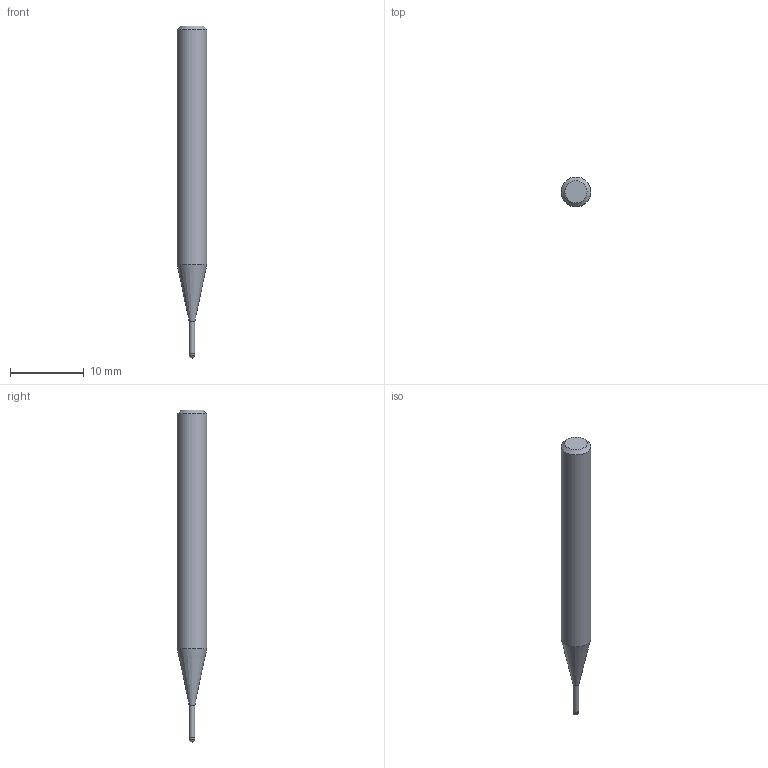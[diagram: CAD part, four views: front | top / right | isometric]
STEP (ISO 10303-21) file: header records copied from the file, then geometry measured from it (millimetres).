
FILE_DESCRIPTION((''),'2;1');
FILE_NAME('C:\Users\nsx150\AppData\Local\Temp\Mastercam 2021\3SYKECWX22\TEMP.step','2021-04-22T10:01:36',(''),(''),'STEP Write','Mastercam 2021 ... CNC Software, Inc.','');
FILE_SCHEMA(('AUTOMOTIVE_DESIGN'));
Length unit declared in the file: millimetre
Products named in the file (1): None
Bounding box: 4 x 4 x 45 mm (x, y, z)
Volume: 446.8 mm3; surface area: 486.7 mm2
Topology: 2 solids, 2 shells, 9 faces, 14 edges, 8 vertices
Faces by surface type: plane 3, cylinder 3, cone 2, sphere 1
Full cylindrical faces by diameter (mm): 0.76 x1, 0.8 x1, 4 x1
Entity records: 211 total; most frequent: DIRECTION 36, CARTESIAN_POINT 25, AXIS2_PLACEMENT_3D 18, ORIENTED_EDGE 14, EDGE_LOOP 14, STYLED_ITEM 12, ADVANCED_FACE 9, FACE_BOUND 8
